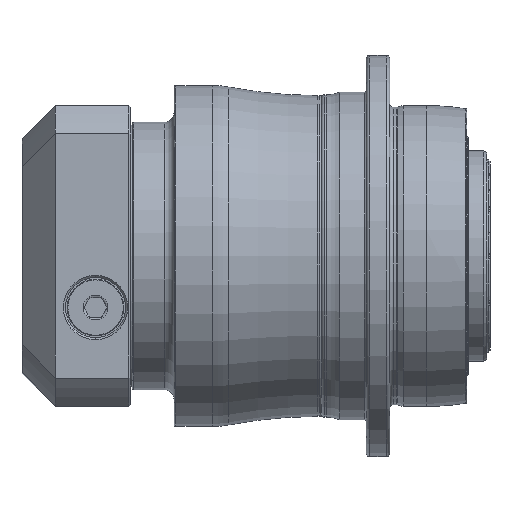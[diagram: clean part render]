
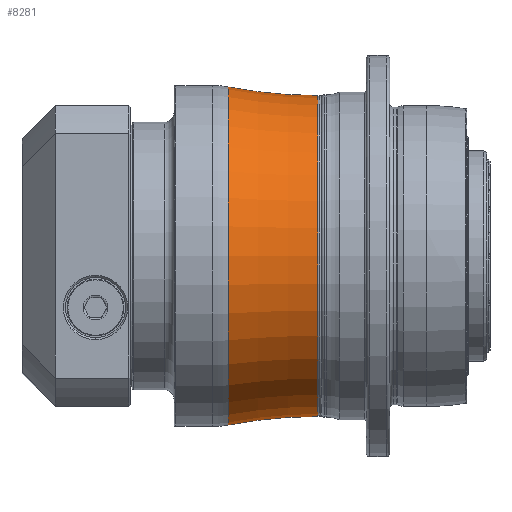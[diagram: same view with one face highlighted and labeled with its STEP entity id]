
A CAD part, top view. The second image highlights one B-rep face of the part: STEP entity #8281.
In plain terms, the highlighted toroidal (fillet/blend) face has major radius 189.667 mm and minor radius 141.667 mm.
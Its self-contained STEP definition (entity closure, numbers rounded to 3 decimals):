
#7795=CARTESIAN_POINT('',(-28.742,0.,0.));
#7796=DIRECTION('',(1.,0.,0.));
#7797=DIRECTION('',(0.,1.,0.));
#7798=AXIS2_PLACEMENT_3D('',#7795,#7796,#7797);
#7800=CARTESIAN_POINT('',(-55.5,0.,0.));
#7801=DIRECTION('',(1.,0.,0.));
#7802=DIRECTION('',(0.,1.,0.));
#7803=AXIS2_PLACEMENT_3D('',#7800,#7801,#7802);
#7858=CARTESIAN_POINT('',(-55.5,189.667,0.));
#7859=DIRECTION('',(0.,0.,1.));
#7860=DIRECTION('',(0.,-1.,0.));
#7861=AXIS2_PLACEMENT_3D('',#7858,#7859,#7860);
#7868=CARTESIAN_POINT('',(-55.5,-189.667,0.));
#7869=DIRECTION('',(0.,0.,-1.));
#7870=DIRECTION('',(0.,1.,0.));
#7871=AXIS2_PLACEMENT_3D('',#7868,#7869,#7870);
#7973=CARTESIAN_POINT('',(-55.5,48.,0.));
#7974=VERTEX_POINT('',#7973);
#7975=CARTESIAN_POINT('',(-55.5,-48.,0.));
#7976=VERTEX_POINT('',#7975);
#8013=CARTESIAN_POINT('',(-28.742,50.55,0.));
#8014=CARTESIAN_POINT('',(-28.742,-50.55,0.));
#8015=VERTEX_POINT('',#8013);
#8016=VERTEX_POINT('',#8014);
#8267=CARTESIAN_POINT('',(-55.5,0.,0.));
#8268=DIRECTION('',(1.,0.,0.));
#8269=DIRECTION('',(0.,-1.,0.));
#8270=AXIS2_PLACEMENT_3D('',#8267,#8268,#8269);
#8271=TOROIDAL_SURFACE('',#8270,189.667,141.667);
#8273=ORIENTED_EDGE('',*,*,#8272,.T.);
#8275=ORIENTED_EDGE('',*,*,#8274,.F.);
#8276=ORIENTED_EDGE('',*,*,#8261,.F.);
#8278=ORIENTED_EDGE('',*,*,#8277,.T.);
#8279=EDGE_LOOP('',(#8273,#8275,#8276,#8278));
#8280=FACE_OUTER_BOUND('',#8279,.F.);
#8281=ADVANCED_FACE('',(#8280),#8271,.F.);
#7799=CIRCLE('',#7798,50.55);
#7804=CIRCLE('',#7803,48.);
#7862=CIRCLE('',#7861,141.667);
#7872=CIRCLE('',#7871,141.667);
#8261=EDGE_CURVE('',#7974,#7976,#7804,.T.);
#8272=EDGE_CURVE('',#8015,#8016,#7799,.T.);
#8274=EDGE_CURVE('',#7976,#8016,#7872,.T.);
#8277=EDGE_CURVE('',#7974,#8015,#7862,.T.);
